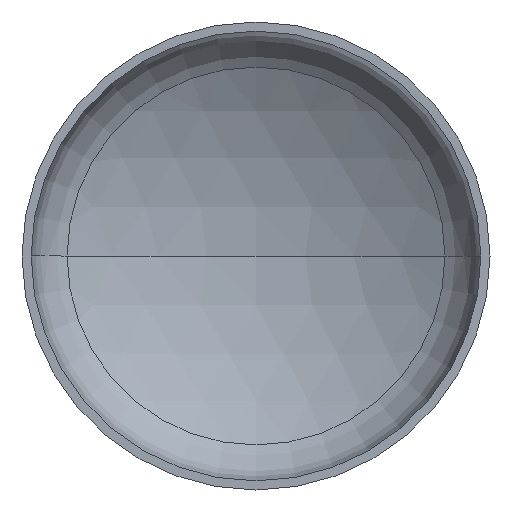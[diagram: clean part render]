
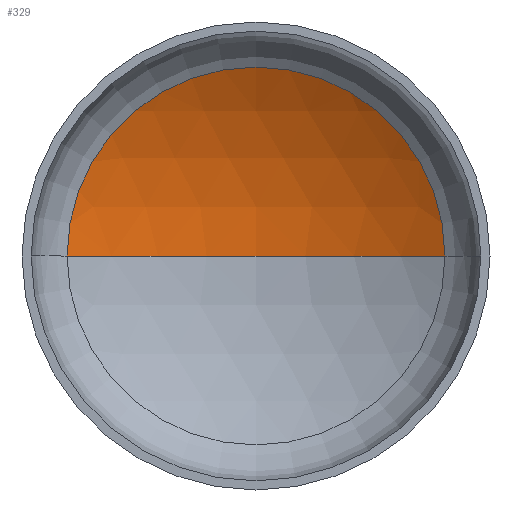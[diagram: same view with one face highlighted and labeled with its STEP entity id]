
A CAD part, front view. The second image highlights one B-rep face of the part: STEP entity #329.
In plain terms, the highlighted spherical face has radius 1600 mm.
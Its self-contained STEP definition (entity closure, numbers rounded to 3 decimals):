
#2 = AXIS2_PLACEMENT_3D ( 'NONE', #406, #382, #180 ) ;
#5 = AXIS2_PLACEMENT_3D ( 'NONE', #347, #93, #298 ) ;
#6 = AXIS2_PLACEMENT_3D ( 'NONE', #144, #313, #381 ) ;
#8 = SPHERICAL_SURFACE ( 'NONE', #6, 1600. ) ;
#34 = AXIS2_PLACEMENT_3D ( 'NONE', #384, #251, #408 ) ;
#52 = ORIENTED_EDGE ( 'NONE', *, *, #108, .T. ) ;
#60 = ORIENTED_EDGE ( 'NONE', *, *, #336, .T. ) ;
#73 = EDGE_LOOP ( 'NONE', ( #106, #60, #52 ) ) ;
#90 = VERTEX_POINT ( 'NONE', #171 ) ;
#93 = DIRECTION ( 'NONE',  ( 0., 0., -1. ) ) ;
#102 = VERTEX_POINT ( 'NONE', #357 ) ;
#106 = ORIENTED_EDGE ( 'NONE', *, *, #344, .F. ) ;
#108 = EDGE_CURVE ( 'NONE', #143, #102, #379, .T. ) ;
#143 = VERTEX_POINT ( 'NONE', #249 ) ;
#144 = CARTESIAN_POINT ( 'NONE',  ( 0., -993.687, 0. ) ) ;
#171 = CARTESIAN_POINT ( 'NONE',  ( 0., 606.313, 0. ) ) ;
#180 = DIRECTION ( 'NONE',  ( 1., 0., 0. ) ) ;
#239 = CIRCLE ( 'NONE', #5, 1600. ) ;
#249 = CARTESIAN_POINT ( 'NONE',  ( 807.442, 387.63, 0. ) ) ;
#251 = DIRECTION ( 'NONE',  ( 0., -1., 0. ) ) ;
#294 = CIRCLE ( 'NONE', #2, 1600. ) ;
#298 = DIRECTION ( 'NONE',  ( -1., 0., 0. ) ) ;
#313 = DIRECTION ( 'NONE',  ( 0., 0., -1. ) ) ;
#329 = ADVANCED_FACE ( 'NONE', ( #360 ), #8, .F. ) ;
#336 = EDGE_CURVE ( 'NONE', #90, #143, #239, .T. ) ;
#344 = EDGE_CURVE ( 'NONE', #90, #102, #294, .T. ) ;
#347 = CARTESIAN_POINT ( 'NONE',  ( 0., -993.687, 0. ) ) ;
#357 = CARTESIAN_POINT ( 'NONE',  ( -807.442, 387.63, 0. ) ) ;
#360 = FACE_OUTER_BOUND ( 'NONE', #73, .T. ) ;
#379 = CIRCLE ( 'NONE', #34, 807.442 ) ;
#381 = DIRECTION ( 'NONE',  ( -1., 0., 0. ) ) ;
#382 = DIRECTION ( 'NONE',  ( 0., 0., 1. ) ) ;
#384 = CARTESIAN_POINT ( 'NONE',  ( 0., 387.63, 0. ) ) ;
#406 = CARTESIAN_POINT ( 'NONE',  ( 0., -993.687, 0. ) ) ;
#408 = DIRECTION ( 'NONE',  ( 1., 0., 0. ) ) ;
